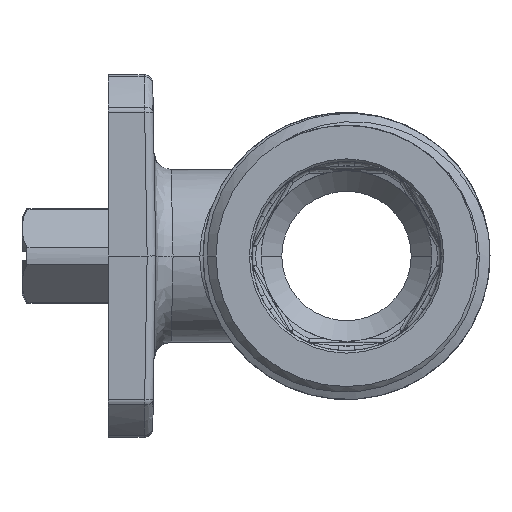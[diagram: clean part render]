
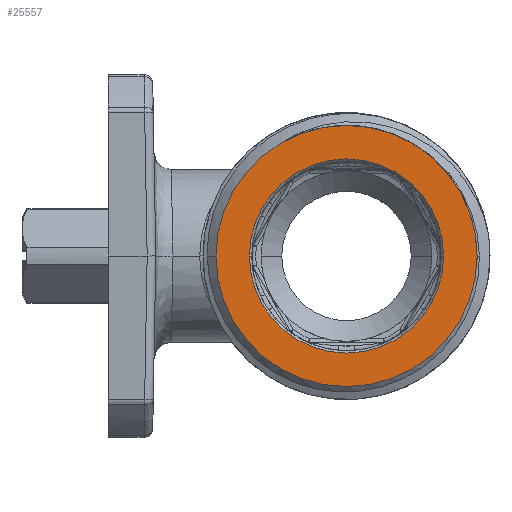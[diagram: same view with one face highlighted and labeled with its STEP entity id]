
A CAD part, left-side view. The second image highlights one B-rep face of the part: STEP entity #25557.
In plain terms, the highlighted planar face has unit normal (-1, 0, 0).
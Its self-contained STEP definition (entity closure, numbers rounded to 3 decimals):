
#2715=CARTESIAN_POINT('',(-43.45,0.,0.));
#2716=DIRECTION('',(1.,0.,0.));
#2717=DIRECTION('',(0.,-1.,0.));
#2718=AXIS2_PLACEMENT_3D('',#2715,#2716,#2717);
#2720=CARTESIAN_POINT('',(-43.45,0.,0.));
#2721=DIRECTION('',(-1.,0.,0.));
#2722=DIRECTION('',(0.,-1.,0.));
#2723=AXIS2_PLACEMENT_3D('',#2720,#2721,#2722);
#2734=CARTESIAN_POINT('',(-43.45,0.,0.));
#2735=DIRECTION('',(-1.,0.,0.));
#2736=DIRECTION('',(0.,-1.,0.));
#2737=AXIS2_PLACEMENT_3D('',#2734,#2735,#2736);
#3018=CARTESIAN_POINT('',(-43.45,0.,0.));
#3019=DIRECTION('',(1.,0.,0.));
#3020=DIRECTION('',(0.,-1.,0.));
#3021=AXIS2_PLACEMENT_3D('',#3018,#3019,#3020);
#22453=CARTESIAN_POINT('',(-43.45,-15.13,0.));
#22454=CARTESIAN_POINT('',(-43.45,15.13,0.));
#22455=VERTEX_POINT('',#22453);
#22456=VERTEX_POINT('',#22454);
#22895=CARTESIAN_POINT('',(-43.45,-11.25,0.));
#22896=CARTESIAN_POINT('',(-43.45,11.25,0.));
#22897=VERTEX_POINT('',#22895);
#22898=VERTEX_POINT('',#22896);
#25542=CARTESIAN_POINT('',(-43.45,0.,0.));
#25543=DIRECTION('',(1.,0.,0.));
#25544=DIRECTION('',(0.,-1.,0.));
#25545=AXIS2_PLACEMENT_3D('',#25542,#25543,#25544);
#25546=PLANE('',#25545);
#25547=ORIENTED_EDGE('',*,*,#25536,.T.);
#25548=ORIENTED_EDGE('',*,*,#25362,.F.);
#25549=EDGE_LOOP('',(#25547,#25548));
#25550=FACE_OUTER_BOUND('',#25549,.F.);
#25552=ORIENTED_EDGE('',*,*,#25551,.T.);
#25554=ORIENTED_EDGE('',*,*,#25553,.F.);
#25555=EDGE_LOOP('',(#25552,#25554));
#25556=FACE_BOUND('',#25555,.F.);
#2719=CIRCLE('',#2718,15.13);
#2724=CIRCLE('',#2723,15.13);
#2738=CIRCLE('',#2737,11.25);
#3022=CIRCLE('',#3021,11.25);
#25362=EDGE_CURVE('',#22455,#22456,#2724,.T.);
#25536=EDGE_CURVE('',#22455,#22456,#2719,.T.);
#25551=EDGE_CURVE('',#22897,#22898,#2738,.T.);
#25553=EDGE_CURVE('',#22897,#22898,#3022,.T.);
#25557=ADVANCED_FACE('',(#25550,#25556),#25546,.F.);
